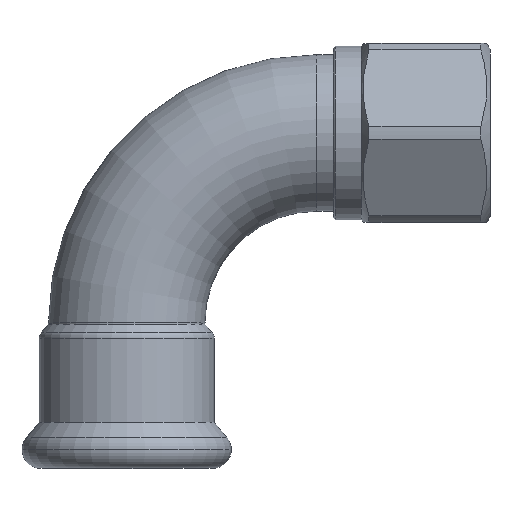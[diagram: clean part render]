
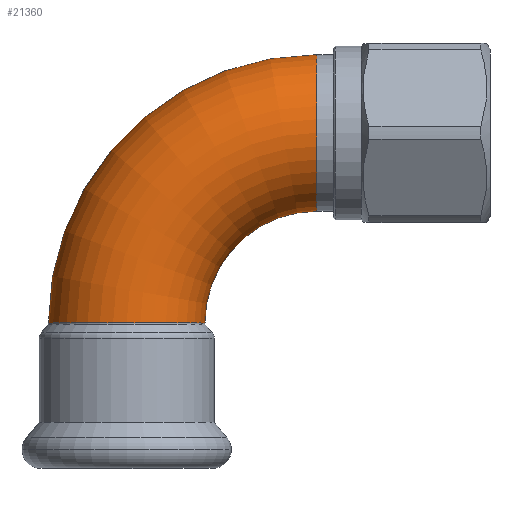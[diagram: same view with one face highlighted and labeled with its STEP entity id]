
A CAD part, top view. The second image highlights one B-rep face of the part: STEP entity #21360.
In plain terms, the highlighted toroidal (fillet/blend) face has major radius 34 mm and minor radius 14 mm.
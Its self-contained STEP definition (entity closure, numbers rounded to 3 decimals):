
#17800=CARTESIAN_POINT('',(-91.071,-305.306,
0.));
#17810=VERTEX_POINT('',#17800);
#17890=CARTESIAN_POINT('',(-91.071,-333.306,
0.));
#17900=VERTEX_POINT('',#17890);
#18120=CARTESIAN_POINT('',(-111.071,-353.306,
0.));
#18130=VERTEX_POINT('',#18120);
#18160=CARTESIAN_POINT('',(-125.071,-353.306,
0.));
#18170=DIRECTION('',(0.,-1.,0.));
#18180=DIRECTION('',(1.,0.,0.));
#18190=AXIS2_PLACEMENT_3D('',#18160,#18170,#18180);
#18200=CIRCLE('',#18190,14.);
#18210=CARTESIAN_POINT('',(-139.071,-353.306,
0.));
#18220=VERTEX_POINT('',#18210);
#18350=CARTESIAN_POINT('',(-91.071,-353.306,
0.));
#18360=DIRECTION('',(0.,0.,1.));
#18370=DIRECTION('',(0.,1.,0.));
#18380=AXIS2_PLACEMENT_3D('',#18350,#18360,#18370);
#18390=TOROIDAL_SURFACE('',#18380,34.,14.);
#18400=CARTESIAN_POINT('',(-91.071,-353.306,
0.));
#18410=DIRECTION('',(0.,0.,1.));
#18420=DIRECTION('',(0.,1.,0.));
#18430=AXIS2_PLACEMENT_3D('',#18400,#18410,#18420);
#18440=CIRCLE('',#18430,20.);
#18450=EDGE_CURVE('',#17900,#18130,#18440,.T.);
#18480=CARTESIAN_POINT('',(-91.071,-353.306,
0.));
#18490=DIRECTION('',(0.,0.,1.));
#18500=DIRECTION('',(0.,1.,0.));
#18510=AXIS2_PLACEMENT_3D('',#18480,#18490,#18500);
#18520=CIRCLE('',#18510,48.);
#18530=EDGE_CURVE('',#17810,#18220,#18520,.T.);
#21230=EDGE_CURVE('',#18130,#18220,#18200,.T.);
#21240=ORIENTED_EDGE('',*,*,#21230,.F.);
#21250=ORIENTED_EDGE('',*,*,#18530,.T.);
#21260=CARTESIAN_POINT('',(-91.071,-319.306,
0.));
#21270=DIRECTION('',(-1.,0.,0.));
#21280=DIRECTION('',(0.,-1.,0.));
#21290=AXIS2_PLACEMENT_3D('',#21260,#21270,#21280);
#21300=CIRCLE('',#21290,14.);
#21310=EDGE_CURVE('',#17900,#17810,#21300,.T.);
#21320=ORIENTED_EDGE('',*,*,#21310,.T.);
#21330=ORIENTED_EDGE('',*,*,#18450,.F.);
#21340=EDGE_LOOP('',(#21330,#21320,#21250,#21240));
#21350=FACE_OUTER_BOUND('',#21340,.T.);
#21360=ADVANCED_FACE('',(#21350),#18390,.T.);
